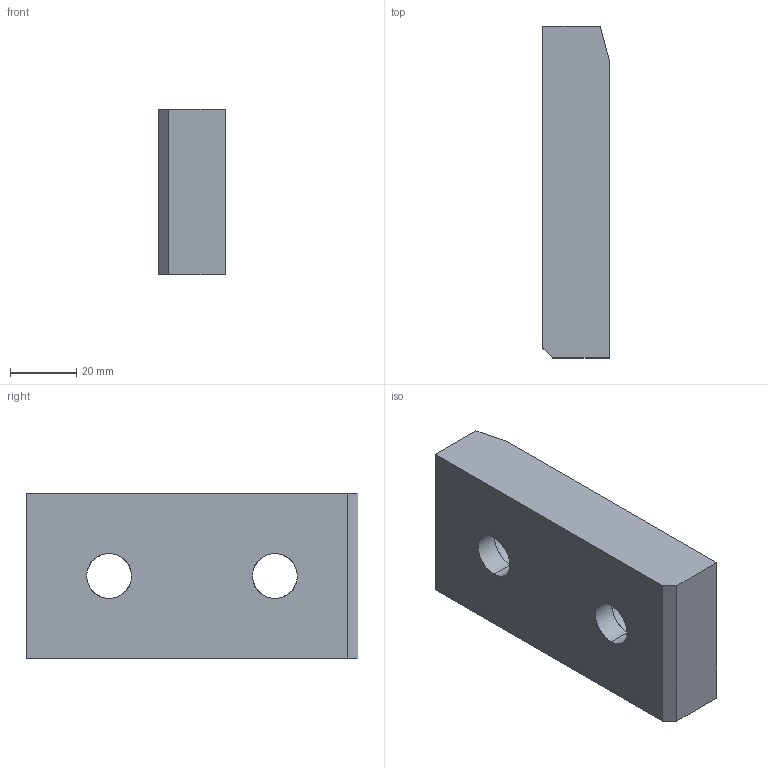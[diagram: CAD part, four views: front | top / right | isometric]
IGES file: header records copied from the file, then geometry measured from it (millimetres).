
Start section: START RECORD GO HERE.
Global section: file name: A915-50X100.igs; native system: DASSAULT SYSTEMES CATIA V5 R20 - www.3ds.com; preprocessor: CATIA Version 5 Release 20 ; author: Utente; organization: NB04-ASUS; date: 20200407.204741; units: millimetre
Bounding box: 20 x 100 x 50 mm (x, y, z)
Surface area: 17260.6 mm2 (no closed solid volume)
Topology: 0 solids, 0 shells, 23 faces, 106 edges, 106 vertices
Faces by surface type: revolution 13, extrusion 10
